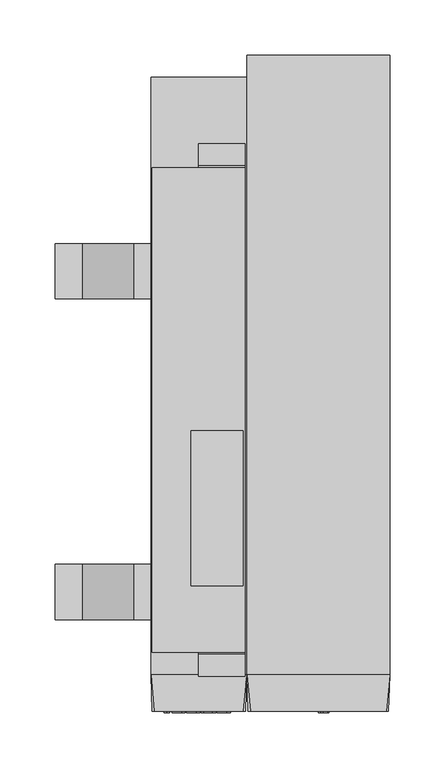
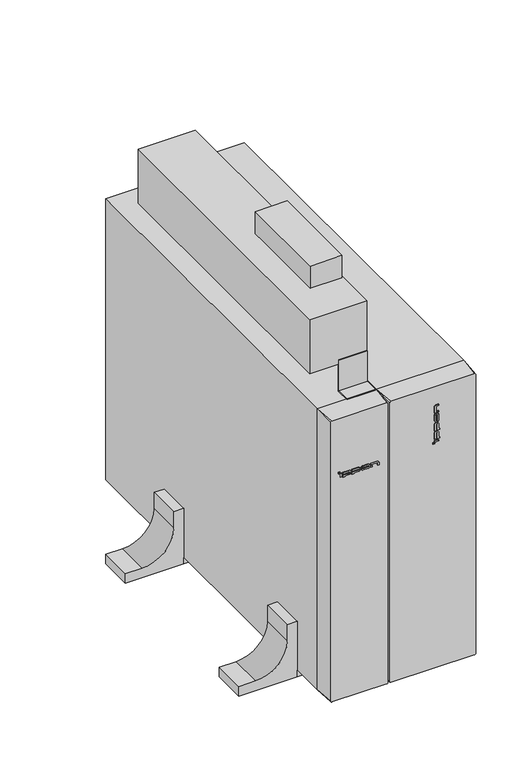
"""IFC4 building model written with IfcOpenShell, lengths in millimetres: proxy geometry, IPPON_ИБП_Innova RT II_60000_10000ВА_Вертикальный : Innova TR II 6000 ВА."""

from ifc_helpers import new_model, si_unit, point, frame, frame_2d, origin, origin_with_axes, place, context, project, spatial, polyline, circle_curve, trimmed, segment, composite_curve, outline, extrude, source, transform, mapped, element, save
from ifc_brep_helpers import plane_surface, spline_surface, advanced_brep


def electrical_equipment_d9fb5ba6(model_context):
    return source(origin(), model_context, "Body", "SolidModel", [
        extrude(outline(polyline([(-42.0, 491.5), (42.0, 491.5), (42.0, 53.5), (-42.0, 53.5), (-42.0, 491.5)])), frame((0.0, 0.0, 490.2370871), z_axis=(0.0, 0.0, 1.0), x_axis=(1.0, 0.0, 0.0)), (0.0, 0.0, 1.0), 84.0),
        extrude(outline(polyline([(53.5, 448.0), (32.0, 448.0), (32.0, 449.5), (52.0, 449.5), (52.0, 497.2370871), (53.5, 497.2370871), (53.5, 448.0)])), frame((0.0, 0.0, 0.0), z_axis=(1.0, 0.0, 0.0), x_axis=(0.0, 1.0, 0.0)), (0.0, 0.0, 1.0), 42.0),
        extrude(outline(polyline([(491.5, 448.0), (491.5, 497.2370871), (493.0, 497.2370871), (493.0, 449.5), (513.0, 449.5), (513.0, 448.0), (491.5, 448.0)])), frame((0.0, 0.0, 0.0), z_axis=(1.0, 0.0, 0.0), x_axis=(0.0, 1.0, 0.0)), (0.0, 0.0, 1.0), 42.0),
        extrude(outline(polyline([(-7.0, 253.5), (40.0, 253.5), (40.0, 113.5), (-7.0, 113.5), (-7.0, 253.5)])), frame((0.0, 0.0, 455.2370871), z_axis=(0.0, 0.0, 1.0), x_axis=(1.0, 0.0, 0.0)), (0.0, 0.0, 1.0), 154.0),
        extrude(outline(polyline([(110.55, -1.0), (108.25, -1.0), (108.25, 0.0), (110.55, 0.0), (110.55, -1.0)])), frame((0.0, 0.0, 360.0748292), z_axis=(0.0, 0.0, 1.0), x_axis=(1.0, 0.0, 0.0)), (0.0, 0.0, 1.0), 2.0),
        extrude(outline(polyline([(116.55, -1.0), (114.3231769, -1.0), (114.3231769, 0.0), (116.55, 0.0), (116.55, -1.0)])), frame((0.0, 0.0, 407.8501899), z_axis=(0.0, 0.0, 1.0), x_axis=(1.0, 0.0, 0.0)), (0.0, 0.0, 1.0), 2.0),
        extrude(outline(polyline([(116.55, -1.0), (110.55, -1.0), (110.55, 0.0), (116.55, 0.0), (116.55, -1.0)])), frame((0.0, 0.0, 362.7633101), z_axis=(0.0, 0.0, 1.0), x_axis=(1.0, 0.0, 0.0)), (0.0, 0.0, 1.0), 2.0447674),
        extrude(outline(composite_curve([segment(polyline([(367.0225317, 112.81244), (376.2542889, 112.81244)]), True, "CONTINUOUS"), segment(trimmed(circle_curve(frame_2d((376.2542889, 113.6689193)), 0.8564793), [point((376.2542889, 112.81244))], [point((376.2542889, 114.5253986))], True, "CARTESIAN"), True, "CONTINUOUS"), segment(polyline([(376.2542889, 114.5253986), (367.0225317, 114.5253986), (367.0225317, 118.0159032), (369.0225317, 118.0159032), (369.0225317, 116.55), (376.0980389, 116.55)]), True, "CONTINUOUS"), segment(trimmed(circle_curve(frame_2d((376.0980389, 113.55)), 3.0), [point((376.0980389, 116.55))], [point((376.0980389, 110.55))], False, "CARTESIAN"), True, "CONTINUOUS"), segment(polyline([(376.0980389, 110.55), (367.0225317, 110.55), (367.0225317, 112.81244)]), True, "CONTINUOUS")], self_intersect=False)), frame((0.0, -1.0, 0.0), z_axis=(0.0, 1.0, 0.0), x_axis=(0.0, 0.0, 1.0)), (0.0, 0.0, 1.0), 1.0),
        extrude(outline(composite_curve([segment(polyline([(380.2295334, 112.81244), (389.4612907, 112.81244)]), True, "CONTINUOUS"), segment(trimmed(circle_curve(frame_2d((389.4612907, 113.6689193)), 0.8564793), [point((389.4612907, 112.81244))], [point((389.4612907, 114.5253986))], True, "CARTESIAN"), True, "CONTINUOUS"), segment(polyline([(389.4612907, 114.5253986), (380.2295334, 114.5253986), (380.2295334, 118.0159032), (382.2295334, 118.0159032), (382.2295334, 116.55), (389.3050407, 116.55)]), True, "CONTINUOUS"), segment(trimmed(circle_curve(frame_2d((389.3050407, 113.55)), 3.0), [point((389.3050407, 116.55))], [point((389.3050407, 110.55))], False, "CARTESIAN"), True, "CONTINUOUS"), segment(polyline([(389.3050407, 110.55), (380.2295334, 110.55), (380.2295334, 112.81244)]), True, "CONTINUOUS")], self_intersect=False)), frame((0.0, -1.0, 0.0), z_axis=(0.0, 1.0, 0.0), x_axis=(0.0, 0.0, 1.0)), (0.0, 0.0, 1.0), 1.0),
        extrude(outline(composite_curve([segment(trimmed(circle_curve(frame_2d((403.8052996, 113.55)), 3.0), [point((403.8052996, 116.55))], [point((403.8052996, 110.55))], False, "CARTESIAN"), True, "CONTINUOUS"), segment(polyline([(403.8052996, 110.55), (396.2052996, 110.55)]), True, "CONTINUOUS"), segment(trimmed(circle_curve(frame_2d((396.2052996, 113.55)), 3.0), [point((396.2052996, 110.55))], [point((396.2052996, 116.55))], False, "CARTESIAN"), True, "CONTINUOUS"), segment(polyline([(396.2052996, 116.55), (403.8052996, 116.55)]), True, "CONTINUOUS")], self_intersect=False), holes=[composite_curve([segment(polyline([(403.9615496, 114.5253986), (396.0490496, 114.5253986)]), True, "CONTINUOUS"), segment(trimmed(circle_curve(frame_2d((396.0490496, 113.6689193)), 0.8564793), [point((396.0490496, 114.5253986))], [point((396.0490496, 112.81244))], True, "CARTESIAN"), True, "CONTINUOUS"), segment(polyline([(396.0490496, 112.81244), (403.9615496, 112.81244)]), True, "CONTINUOUS"), segment(trimmed(circle_curve(frame_2d((403.9615496, 113.6689193)), 0.8564793), [point((403.9615496, 112.81244))], [point((403.9615496, 114.5253986))], True, "CARTESIAN"), True, "CONTINUOUS")], self_intersect=False)]), frame((0.0, -1.0, 0.0), z_axis=(0.0, 1.0, 0.0), x_axis=(0.0, 0.0, 1.0)), (0.0, 0.0, 1.0), 1.0),
        extrude(outline(composite_curve([segment(polyline([(407.8501899, 112.81244), (417.0819472, 112.81244)]), True, "CONTINUOUS"), segment(trimmed(circle_curve(frame_2d((417.0819472, 113.6689193)), 0.8564793), [point((417.0819472, 112.81244))], [point((417.9384265, 113.6689193))], True, "CARTESIAN"), True, "CONTINUOUS"), segment(polyline([(417.9384265, 113.6689193), (417.9384265, 116.55), (419.8784346, 116.55), (419.8784346, 113.0195835)]), True, "CONTINUOUS"), segment(trimmed(circle_curve(frame_2d((416.9256972, 113.55)), 3.0), [point((419.8784346, 113.0195835))], [point((416.9256972, 110.55))], False, "CARTESIAN"), True, "CONTINUOUS"), segment(polyline([(416.9256972, 110.55), (407.8501899, 110.55), (407.8501899, 112.81244)]), True, "CONTINUOUS")], self_intersect=False)), frame((0.0, -1.0, 0.0), z_axis=(0.0, 1.0, 0.0), x_axis=(0.0, 0.0, 1.0)), (0.0, 0.0, 1.0), 1.0),
        extrude(outline(polyline([(-29.1718133, -1.0), (-31.1718133, -1.0), (-31.1718133, 0.0), (-29.1718133, 0.0), (-29.1718133, -1.0)])), frame((0.0, 0.0, 362.5595835), z_axis=(0.0, 0.0, 1.0), x_axis=(1.0, 0.0, 0.0)), (0.0, 0.0, 1.0), 2.3),
        extrude(outline(polyline([(18.6035474, -1.0), (16.6035474, -1.0), (16.6035474, 0.0), (18.6035474, 0.0), (18.6035474, -1.0)])), frame((0.0, 0.0, 356.5595835), z_axis=(0.0, 0.0, 1.0), x_axis=(1.0, 0.0, 0.0)), (0.0, 0.0, 1.0), 2.2268231),
        extrude(outline(polyline([(-26.438565, -1.0), (-28.4833324, -1.0), (-28.4833324, 0.0), (-26.438565, 0.0), (-26.438565, -1.0)])), frame((0.0, 0.0, 356.5595835), z_axis=(0.0, 0.0, 1.0), x_axis=(1.0, 0.0, 0.0)), (0.0, 0.0, 1.0), 6.0),
        extrude(outline(composite_curve([segment(polyline([(360.2971435, -24.2241109), (360.2971435, -14.9923536)]), True, "CONTINUOUS"), segment(trimmed(circle_curve(frame_2d((359.4406642, -14.9923536)), 0.8564793), [point((360.2971435, -14.9923536))], [point((358.5841849, -14.9923536))], True, "CARTESIAN"), True, "CONTINUOUS"), segment(polyline([(358.5841849, -14.9923536), (358.5841849, -24.2241109), (355.0936803, -24.2241109), (355.0936803, -22.2241109), (356.5595835, -22.2241109), (356.5595835, -15.1486036)]), True, "CONTINUOUS"), segment(trimmed(circle_curve(frame_2d((359.5595835, -15.1486036)), 3.0), [point((356.5595835, -15.1486036))], [point((362.5595835, -15.1486036))], False, "CARTESIAN"), True, "CONTINUOUS"), segment(polyline([(362.5595835, -15.1486036), (362.5595835, -24.2241109), (360.2971435, -24.2241109)]), True, "CONTINUOUS")], self_intersect=False)), frame((0.0, -1.0, 0.0), z_axis=(0.0, 1.0, 0.0), x_axis=(0.0, 0.0, 1.0)), (0.0, 0.0, 1.0), 1.0),
        extrude(outline(composite_curve([segment(polyline([(360.2971435, -11.0171091), (360.2971435, -1.7853518)]), True, "CONTINUOUS"), segment(trimmed(circle_curve(frame_2d((359.4406642, -1.7853518)), 0.8564793), [point((360.2971435, -1.7853518))], [point((358.5841849, -1.7853518))], True, "CARTESIAN"), True, "CONTINUOUS"), segment(polyline([(358.5841849, -1.7853518), (358.5841849, -11.0171091), (355.0936803, -11.0171091), (355.0936803, -9.0171091), (356.5595835, -9.0171091), (356.5595835, -1.9416018)]), True, "CONTINUOUS"), segment(trimmed(circle_curve(frame_2d((359.5595835, -1.9416018)), 3.0), [point((356.5595835, -1.9416018))], [point((362.5595835, -1.9416018))], False, "CARTESIAN"), True, "CONTINUOUS"), segment(polyline([(362.5595835, -1.9416018), (362.5595835, -11.0171091), (360.2971435, -11.0171091)]), True, "CONTINUOUS")], self_intersect=False)), frame((0.0, -1.0, 0.0), z_axis=(0.0, 1.0, 0.0), x_axis=(0.0, 0.0, 1.0)), (0.0, 0.0, 1.0), 1.0),
        extrude(outline(composite_curve([segment(trimmed(circle_curve(frame_2d((359.5595835, 12.558657)), 3.0), [point((356.5595835, 12.558657))], [point((362.5595835, 12.558657))], False, "CARTESIAN"), True, "CONTINUOUS"), segment(polyline([(362.5595835, 12.558657), (362.5595835, 4.958657)]), True, "CONTINUOUS"), segment(trimmed(circle_curve(frame_2d((359.5595835, 4.958657)), 3.0), [point((362.5595835, 4.958657))], [point((356.5595835, 4.958657))], False, "CARTESIAN"), True, "CONTINUOUS"), segment(polyline([(356.5595835, 4.958657), (356.5595835, 12.558657)]), True, "CONTINUOUS")], self_intersect=False), holes=[composite_curve([segment(polyline([(358.5841849, 12.714907), (358.5841849, 4.802407)]), True, "CONTINUOUS"), segment(trimmed(circle_curve(frame_2d((359.4406642, 4.802407)), 0.8564793), [point((358.5841849, 4.802407))], [point((360.2971435, 4.802407))], True, "CARTESIAN"), True, "CONTINUOUS"), segment(polyline([(360.2971435, 4.802407), (360.2971435, 12.714907)]), True, "CONTINUOUS"), segment(trimmed(circle_curve(frame_2d((359.4406642, 12.714907)), 0.8564793), [point((360.2971435, 12.714907))], [point((358.5841849, 12.714907))], True, "CARTESIAN"), True, "CONTINUOUS")], self_intersect=False)]), frame((0.0, -1.0, 0.0), z_axis=(0.0, 1.0, 0.0), x_axis=(0.0, 0.0, 1.0)), (0.0, 0.0, 1.0), 1.0),
        extrude(outline(composite_curve([segment(polyline([(360.2971435, 16.6035474), (360.2971435, 25.8353046)]), True, "CONTINUOUS"), segment(trimmed(circle_curve(frame_2d((359.4406642, 25.8353046)), 0.8564793), [point((360.2971435, 25.8353046))], [point((359.4406642, 26.6917839))], True, "CARTESIAN"), True, "CONTINUOUS"), segment(polyline([(359.4406642, 26.6917839), (356.5595835, 26.6917839), (356.5595835, 28.6317921), (360.09, 28.6317921)]), True, "CONTINUOUS"), segment(trimmed(circle_curve(frame_2d((359.5595835, 25.6790546)), 3.0), [point((360.09, 28.6317921))], [point((362.5595835, 25.6790546))], False, "CARTESIAN"), True, "CONTINUOUS"), segment(polyline([(362.5595835, 25.6790546), (362.5595835, 16.6035474), (360.2971435, 16.6035474)]), True, "CONTINUOUS")], self_intersect=False)), frame((0.0, -1.0, 0.0), z_axis=(0.0, 1.0, 0.0), x_axis=(0.0, 0.0, 1.0)), (0.0, 0.0, 1.0), 1.0),
        advanced_brep(
        [(169.75, 0.0, 10.0), (171.75, 0.0, 12.0), (171.75, 0.0, 446.0), (169.75, 0.0, 448.0), (46.75, 0.0, 448.0), (44.75, 0.0, 446.0), (44.75, 0.0, 12.0), (46.75, 0.0, 10.0), (172.75, 33.0, 10.0), (43.75, 33.0, 10.0), (43.75, 33.0, 448.0), (172.75, 33.0, 448.0)],
        [
            (0, 1, circle_curve(frame((169.75, 0.0, 12.0), z_axis=(0.0, -1.0, 0.0), x_axis=(-1.0, 0.0, 0.0)), 2.0)),
            (1, 2),
            (2, 3, circle_curve(frame((169.75, 0.0, 446.0), z_axis=(0.0, -1.0, 0.0), x_axis=(-1.0, 0.0, 0.0)), 2.0)),
            (3, 4),
            (4, 5, circle_curve(frame((46.75, 0.0, 446.0), z_axis=(0.0, -1.0, 0.0), x_axis=(-1.0, 0.0, 0.0)), 2.0)),
            (5, 6),
            (6, 7, circle_curve(frame((46.75, 0.0, 12.0), z_axis=(0.0, -1.0, 0.0), x_axis=(-1.0, 0.0, 0.0)), 2.0)),
            (7, 0),
            (8, 9),
            (9, 10),
            (10, 11),
            (11, 8),
            (0, 8),
            (8, 1),
            (7, 9),
            (6, 9),
            (5, 10),
            (4, 10),
            (3, 11),
            (2, 11),
        ],
        [
            plane_surface(frame((108.25, 0.0, 229.0), z_axis=(0.0, -1.0, 0.0), x_axis=(1.0, 0.0, 0.0))),
            plane_surface(frame((108.25, 33.0, 229.0), z_axis=(0.0, 1.0, 0.0), x_axis=(1.0, 0.0, 0.0))),
            spline_surface(2, 1, [[(172.75, 33.0, 10.0), (169.75, 0.0, 10.0)], [(172.75, 33.0, 10.0), (171.75, 0.0, 10.0)], [(172.75, 33.0, 10.0), (171.75, 0.0, 12.0)]], [3, 3], [2, 2], [0.0, 1.0], [0.0, 1.0], weights=[[1.0, 1.0], [0.7071067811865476, 0.7071067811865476], [1.0, 1.0]]),
            plane_surface(frame((108.25, 33.0, 10.0), z_axis=(0.0, 0.0, -1.0), x_axis=(1.0, 0.0, 0.0))),
            spline_surface(2, 1, [[(43.75, 33.0, 10.0), (44.75, 0.0, 12.0)], [(43.75, 33.0, 10.0), (44.75, 0.0, 10.0)], [(43.75, 33.0, 10.0), (46.75, 0.0, 10.0)]], [3, 3], [2, 2], [0.0, 1.0], [0.0, 1.0], weights=[[1.0, 1.0], [0.7071067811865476, 0.7071067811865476], [1.0, 1.0]]),
            plane_surface(frame((43.75, 33.0, 229.0), z_axis=(-0.9995411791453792, -0.030289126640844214, 0.0), x_axis=(0.0, 0.0, -1.0))),
            spline_surface(2, 1, [[(43.75, 33.0, 448.0), (46.75, 0.0, 448.0)], [(43.75, 33.0, 448.0), (44.75, 0.0, 448.0)], [(43.75, 33.0, 448.0), (44.75, 0.0, 446.0)]], [3, 3], [2, 2], [0.0, 1.0], [0.0, 1.0], weights=[[1.0, 1.0], [0.7071067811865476, 0.7071067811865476], [1.0, 1.0]]),
            plane_surface(frame((108.25, 33.0, 448.0), z_axis=(0.0, 0.0, 1.0), x_axis=(-1.0, 0.0, 0.0))),
            spline_surface(2, 1, [[(172.75, 33.0, 448.0), (171.75, 0.0, 446.0)], [(172.75, 33.0, 448.0), (171.75, 0.0, 448.0)], [(172.75, 33.0, 448.0), (169.75, 0.0, 448.0)]], [3, 3], [2, 2], [0.0, 1.0], [0.0, 1.0], weights=[[1.0, 1.0], [0.7071067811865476, 0.7071067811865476], [1.0, 1.0]]),
            plane_surface(frame((172.75, 33.0, 229.0), z_axis=(0.9995411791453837, -0.030289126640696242, 0.0), x_axis=(0.0, 0.0, 1.0))),
        ],
        [
            (0, [[1, 2, 3, 4, 5, 6, 7, 8]]),
            (1, [[9, 10, 11, 12]]),
            (2, [[-1, 13, 14]]),
            (3, [[-9, -13, -8, 15]]),
            (4, [[-7, 16, -15]]),
            (5, [[-10, -16, -6, 17]]),
            (6, [[-5, 18, -17]]),
            (7, [[-11, -18, -4, 19]]),
            (8, [[-3, 20, -19]]),
            (9, [[-12, -20, -2, -14]]),
        ],
    ),
        extrude(outline(polyline([(172.75, 33.0), (43.75, 33.0), (43.75, 593.0), (172.75, 593.0), (172.75, 33.0)])), frame((0.0, 0.0, 10.0), z_axis=(0.0, 0.0, 1.0), x_axis=(1.0, 0.0, 0.0)), (0.0, 0.0, 1.0), 438.0),
        advanced_brep(
        [(40.25, 0.0, 10.0), (42.25, 0.0, 12.0), (42.25, 0.0, 446.0), (40.25, 0.0, 448.0), (-40.25, 0.0, 448.0), (-42.25, 0.0, 446.0), (-42.25, 0.0, 12.0), (-40.25, 0.0, 10.0), (43.25, 33.0, 10.0), (-43.25, 33.0, 10.0), (-43.25, 33.0, 448.0), (43.25, 33.0, 448.0)],
        [
            (0, 1, circle_curve(frame((40.25, 0.0, 12.0), z_axis=(0.0, -1.0, 0.0), x_axis=(-1.0, 0.0, 0.0)), 2.0)),
            (1, 2),
            (2, 3, circle_curve(frame((40.25, 0.0, 446.0), z_axis=(0.0, -1.0, 0.0), x_axis=(-1.0, 0.0, 0.0)), 2.0)),
            (3, 4),
            (4, 5, circle_curve(frame((-40.25, 0.0, 446.0), z_axis=(0.0, -1.0, 0.0), x_axis=(-1.0, 0.0, 0.0)), 2.0)),
            (5, 6),
            (6, 7, circle_curve(frame((-40.25, 0.0, 12.0), z_axis=(0.0, -1.0, 0.0), x_axis=(-1.0, 0.0, 0.0)), 2.0)),
            (7, 0),
            (8, 9),
            (9, 10),
            (10, 11),
            (11, 8),
            (0, 8),
            (8, 1),
            (7, 9),
            (6, 9),
            (5, 10),
            (4, 10),
            (3, 11),
            (2, 11),
        ],
        [
            plane_surface(frame((0.0, 0.0, 229.0), z_axis=(0.0, -1.0, 0.0), x_axis=(1.0, 0.0, 0.0))),
            plane_surface(frame((0.0, 33.0, 229.0), z_axis=(0.0, 1.0, 0.0), x_axis=(1.0, 0.0, 0.0))),
            spline_surface(2, 1, [[(43.25, 33.0, 10.0), (40.25, 0.0, 10.0)], [(43.25, 33.0, 10.0), (42.25, 0.0, 10.0)], [(43.25, 33.0, 10.0), (42.25, 0.0, 12.0)]], [3, 3], [2, 2], [0.0, 1.0], [0.0, 1.0], weights=[[1.0, 1.0], [0.7071067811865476, 0.7071067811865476], [1.0, 1.0]]),
            plane_surface(frame((0.0, 33.0, 10.0), z_axis=(0.0, 0.0, -1.0), x_axis=(1.0, 0.0, 0.0))),
            spline_surface(2, 1, [[(-43.25, 33.0, 10.0), (-42.25, 0.0, 12.0)], [(-43.25, 33.0, 10.0), (-42.25, 0.0, 10.0)], [(-43.25, 33.0, 10.0), (-40.25, 0.0, 10.0)]], [3, 3], [2, 2], [0.0, 1.0], [0.0, 1.0], weights=[[1.0, 1.0], [0.7071067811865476, 0.7071067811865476], [1.0, 1.0]]),
            plane_surface(frame((-43.25, 33.0, 229.0), z_axis=(-0.9995411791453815, -0.030289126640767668, 0.0), x_axis=(0.0, 0.0, -1.0))),
            spline_surface(2, 1, [[(-43.25, 33.0, 448.0), (-40.25, 0.0, 448.0)], [(-43.25, 33.0, 448.0), (-42.25, 0.0, 448.0)], [(-43.25, 33.0, 448.0), (-42.25, 0.0, 446.0)]], [3, 3], [2, 2], [0.0, 1.0], [0.0, 1.0], weights=[[1.0, 1.0], [0.7071067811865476, 0.7071067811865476], [1.0, 1.0]]),
            plane_surface(frame((0.0, 33.0, 448.0), z_axis=(0.0, 0.0, 1.0), x_axis=(-1.0, 0.0, 0.0))),
            spline_surface(2, 1, [[(43.25, 33.0, 448.0), (42.25, 0.0, 446.0)], [(43.25, 33.0, 448.0), (42.25, 0.0, 448.0)], [(43.25, 33.0, 448.0), (40.25, 0.0, 448.0)]], [3, 3], [2, 2], [0.0, 1.0], [0.0, 1.0], weights=[[1.0, 1.0], [0.7071067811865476, 0.7071067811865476], [1.0, 1.0]]),
            plane_surface(frame((43.25, 33.0, 229.0), z_axis=(0.9995411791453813, -0.03028912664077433, 0.0), x_axis=(0.0, 0.0, 1.0))),
        ],
        [
            (0, [[1, 2, 3, 4, 5, 6, 7, 8]]),
            (1, [[9, 10, 11, 12]]),
            (2, [[-1, 13, 14]]),
            (3, [[-9, -13, -8, 15]]),
            (4, [[-7, 16, -15]]),
            (5, [[-10, -16, -6, 17]]),
            (6, [[-5, 18, -17]]),
            (7, [[-11, -18, -4, 19]]),
            (8, [[-3, 20, -19]]),
            (9, [[-12, -20, -2, -14]]),
        ],
    ),
        extrude(outline(polyline([(43.25, 33.0), (-43.25, 33.0), (-43.25, 573.0), (43.25, 573.0), (43.25, 33.0)])), frame((0.0, 0.0, 10.0), z_axis=(0.0, 0.0, 1.0), x_axis=(1.0, 0.0, 0.0)), (0.0, 0.0, 1.0), 438.0),
        extrude(outline(polyline([(172.75, 83.0), (-43.25, 83.0), (-43.25, 133.0), (172.75, 133.0), (172.75, 83.0)])), origin_with_axes(), (0.0, 0.0, 1.0), 10.0),
        extrude(outline(polyline([(-43.25, 423.0), (172.75, 423.0), (172.75, 373.0), (-43.25, 373.0), (-43.25, 423.0)])), origin_with_axes(), (0.0, 0.0, 1.0), 10.0),
        extrude(outline(composite_curve([segment(polyline([(86.5, -58.25), (61.5, -58.25)]), True, "CONTINUOUS"), segment(trimmed(circle_curve(frame_2d((61.5, -104.75)), 46.5), [point((61.5, -58.25))], [point((15.0, -104.75))], True, "CARTESIAN"), True, "CONTINUOUS"), segment(polyline([(15.0, -104.75), (15.0, -129.75), (0.0, -129.75), (0.0, -43.25), (86.5, -43.25), (86.5, -58.25)]), True, "CONTINUOUS")], self_intersect=False)), frame((0.0, 83.0, 0.0), z_axis=(0.0, 1.0, 0.0), x_axis=(0.0, 0.0, 1.0)), (0.0, 0.0, 1.0), 50.0),
        extrude(outline(composite_curve([segment(polyline([(86.5, -58.25), (61.5, -58.25)]), True, "CONTINUOUS"), segment(trimmed(circle_curve(frame_2d((61.5, -104.75)), 46.5), [point((61.5, -58.25))], [point((15.0, -104.75))], True, "CARTESIAN"), True, "CONTINUOUS"), segment(polyline([(15.0, -104.75), (15.0, -129.75), (0.0, -129.75), (0.0, -43.25), (86.5, -43.25), (86.5, -58.25)]), True, "CONTINUOUS")], self_intersect=False)), frame((0.0, 373.0, 0.0), z_axis=(0.0, 1.0, 0.0), x_axis=(0.0, 0.0, 1.0)), (0.0, 0.0, 1.0), 50.0),
    ])


if __name__ == "__main__":
    model = new_model("IFC4")
    model_context = context("Model", 3, world=origin())
    ifc_project = project(units=[si_unit("LENGTHUNIT", "METRE", prefix="MILLI")], contexts=[model_context])
    site = spatial("IfcSite", under=ifc_project)
    building = spatial("IfcBuilding", under=site)
    placement = place(None, origin())
    electrical_equipment_shape = electrical_equipment_d9fb5ba6(model_context)
    element("IfcBuildingElementProxy", 1, Name="IPPON_ИБП_Innova RT II_60000_10000ВА_Вертикальный : Innova TR II 6000 ВА", ObjectType="IPPON_ИБП_Innova RT II_60000_10000ВА_Вертикальный : Innova TR II 6000 ВА", at=placement, inside=building, context=model_context, shape_type="MappedRepresentation", body=[
        mapped(electrical_equipment_shape, transform((0.0, 0.0, 0.0), x_axis=(1.0, 0.0, 0.0), y_axis=(0.0, 1.0, 0.0), z_axis=(0.0, 0.0, 1.0))),
    ])
    save(model, "model.ifc")
